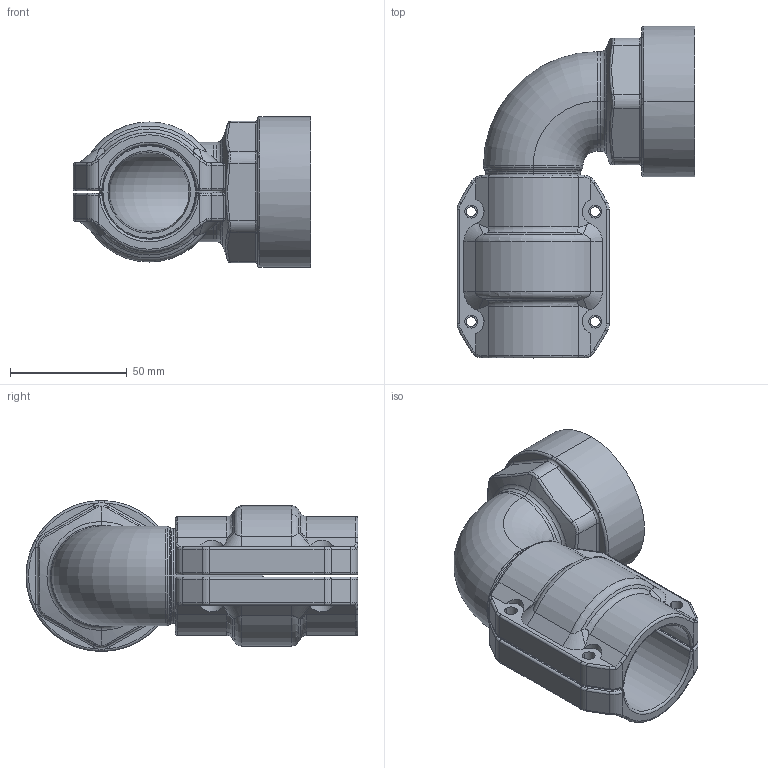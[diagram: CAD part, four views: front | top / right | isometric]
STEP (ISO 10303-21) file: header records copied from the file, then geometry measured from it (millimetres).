
FILE_DESCRIPTION((''),'2;1');
FILE_NAME('AU15441399_ASM','2017-05-12T',('Administrator'),(''),'PRO/ENGINEER BY PARAMETRIC TECHNOLOGY CORPORATION, 2009360','PRO/ENGINEER BY PARAMETRIC TECHNOLOGY CORPORATION, 2009360','');
FILE_SCHEMA(('AUTOMOTIVE_DESIGN_CC2 { 1 2 10303 214 -1 1 5 2 }'));
Length unit declared in the file: millimetre
Products named in the file (5): AU15441300; 201540020001; 201540020000; 2015400200_ASM; AU15441399_ASM
Assembly tree (4 placements, depth 3):
  AU15441399_ASM
    AU15441300
    2015400200_ASM
      201540020001
      201540020000
Bounding box: 101.61 x 141.85 x 64.48 mm (x, y, z)
Volume: 196003.6 mm3; surface area: 68112.8 mm2
Topology: 3 solids, 3 shells, 309 faces, 761 edges, 459 vertices
Faces by surface type: cylinder 114, torus 80, plane 51, bspline 42, cone 14, sphere 8
Entity records: 13249 total; most frequent: CARTESIAN_POINT 3701, DIRECTION 1522, ORIENTED_EDGE 1522, PRESENTATION_STYLE_ASSIGNMENT 764, STYLED_ITEM 764, CURVE_STYLE 761, EDGE_CURVE 761, AXIS2_PLACEMENT_3D 651
